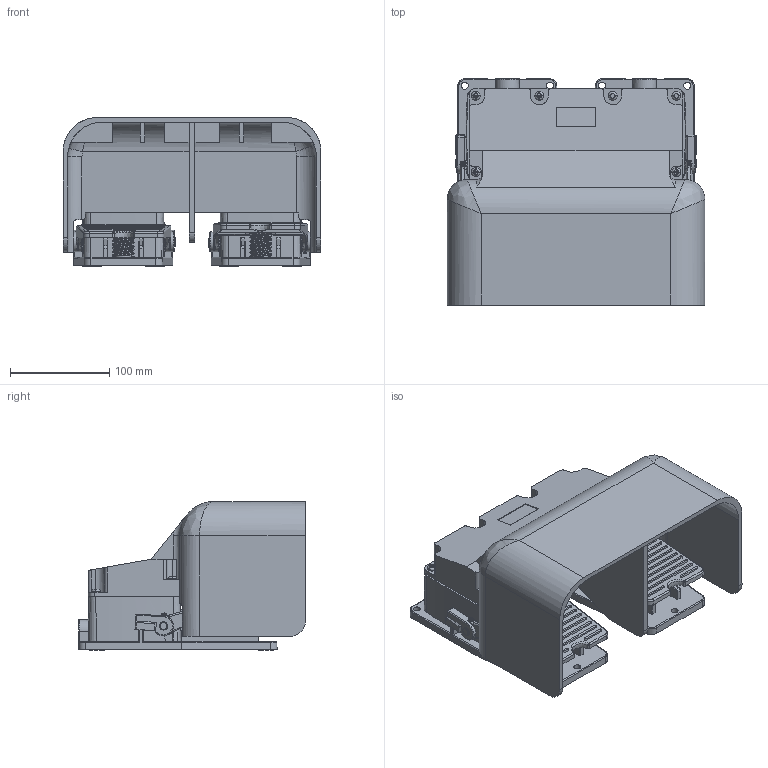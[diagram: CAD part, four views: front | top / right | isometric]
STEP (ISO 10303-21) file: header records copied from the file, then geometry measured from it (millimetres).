
FILE_DESCRIPTION((''),'2;1');
FILE_NAME('ASM0002_ASM','2016-09-12T',('ABS'),(''),'PRO/ENGINEER BY PARAMETRIC TECHNOLOGY CORPORATION, 2012360','PRO/ENGINEER BY PARAMETRIC TECHNOLOGY CORPORATION, 2012360','');
FILE_SCHEMA(('CONFIG_CONTROL_DESIGN'));
Products named in the file (1): ASM0002_ASM
Bounding box: 260 x 228.45 x 150.2 mm (x, y, z)
Volume: 1252560.4 mm3; surface area: 524849.7 mm2
Topology: 1 solids, 10 shells, 2326 faces, 6287 edges, 4054 vertices
Faces by surface type: plane 1055, cylinder 835, cone 140, torus 115, bspline 107, extrusion 44, sphere 30
Entity records: 89411 total; most frequent: CARTESIAN_POINT 32871, ORIENTED_EDGE 12506, DIRECTION 10778, EDGE_CURVE 6253, VERTEX_POINT 4054, AXIS2_PLACEMENT_3D 3709, VECTOR 3360, LINE 3316
